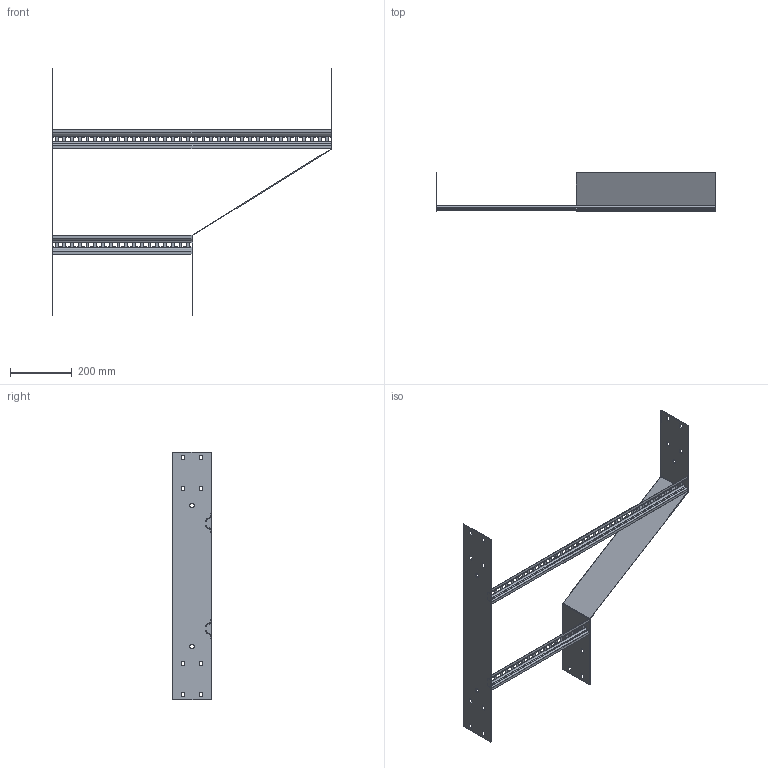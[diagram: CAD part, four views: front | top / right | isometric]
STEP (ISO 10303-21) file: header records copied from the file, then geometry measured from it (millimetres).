
FILE_DESCRIPTION (( 'STEP AP203' ), '1' );
FILE_NAME ('N3 LHR900450.STEP', '2024-08-27T06:21:43', ( '' ), ( '' ), 'SwSTEP 2.0', 'SolidWorks 2023', '' );
FILE_SCHEMA (( 'CONFIG_CONTROL_DESIGN' ));
Length unit declared in the file: millimetre
Products named in the file (5): N3 Back Plate_800; N3 Reducer side plate_LHR450x900; N3 LHR900450; Ladder Rung_Ladder Rung -  450mm; Ladder Rung_Ladder Rung -  900mm
Assembly tree (4 placements, depth 2):
  N3 LHR900450
    N3 Reducer side plate_LHR450x900
    Ladder Rung_Ladder Rung -  450mm
    Ladder Rung_Ladder Rung -  900mm
    N3 Back Plate_800
Bounding box: 904 x 124 x 800 mm (x, y, z)
Volume: 596901.1 mm3; surface area: 652914.2 mm2
Topology: 4 solids, 4 shells, 400 faces, 1096 edges, 704 vertices
Faces by surface type: plane 372, cylinder 28
Entity records: 13167 total; most frequent: CARTESIAN_POINT 2207, ORIENTED_EDGE 2192, DIRECTION 1966, EDGE_CURVE 1096, VECTOR 1040, LINE 1040, VERTEX_POINT 704, EDGE_LOOP 544
